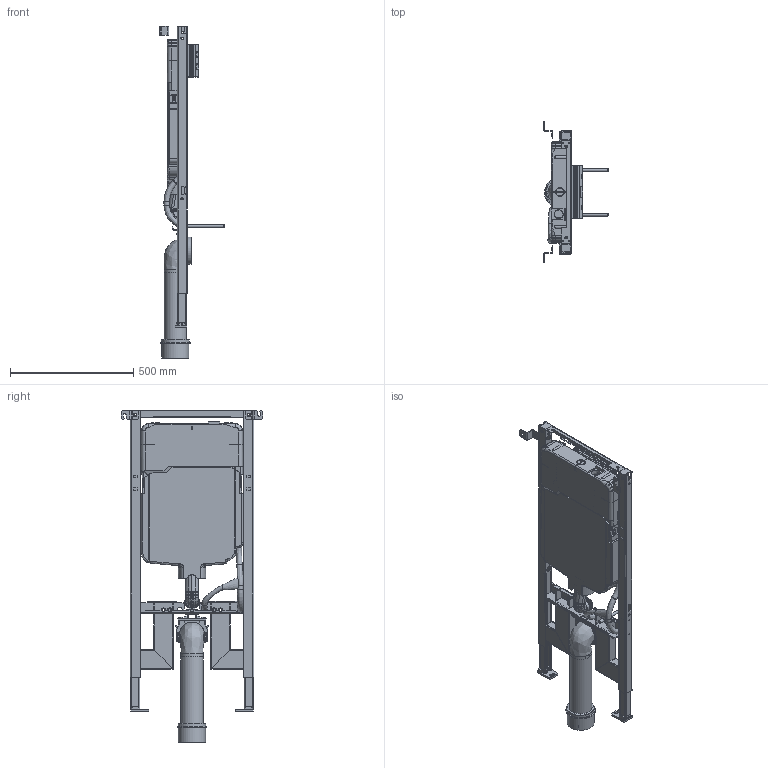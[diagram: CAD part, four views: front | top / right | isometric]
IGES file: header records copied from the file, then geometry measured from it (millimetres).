
Global section: file name: 111796; native system: Autodesk Inventor 2014; preprocessor: unknown; author: seihe2; date: 20151119.115527; units: millimetre
Bounding box: 260 x 573 x 1344.25 mm (x, y, z)
Volume: 33824336.5 mm3; surface area: 5238028.5 mm2
Topology: 37 solids, 38 shells, 3777 faces, 10122 edges, 6470 vertices
Faces by surface type: plane 2017, revolution 666, bspline 550, cylinder 530, cone 14
Full cylindrical faces by diameter (mm): 12 x4, 14 x2, 17.25 x4, 22 x10, 51.7 x4, 55.91 x2, 58 x2, 59 x6, 60 x2, 70 x4, 90 x1, 90.375 x1, 98.2 x1, 110 x1, 111 x1, 112.2 x1, 120 x1
